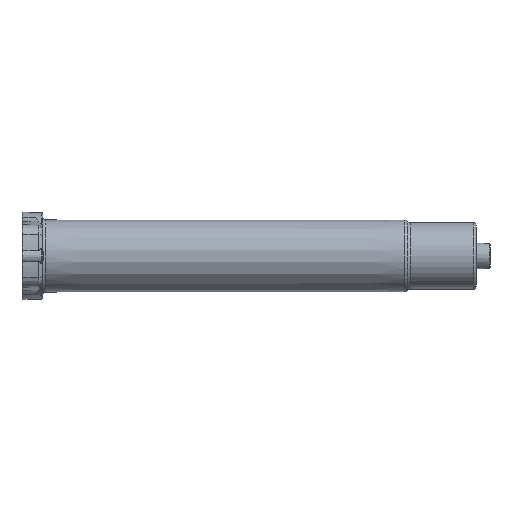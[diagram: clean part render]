
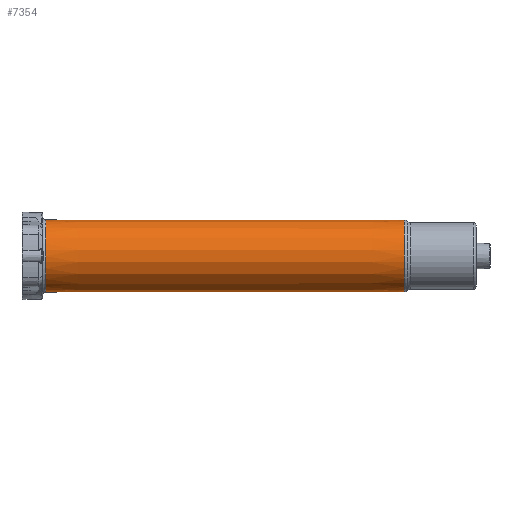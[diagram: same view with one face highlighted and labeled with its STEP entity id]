
A CAD part, left-side view. The second image highlights one B-rep face of the part: STEP entity #7354.
In plain terms, the highlighted conical face has half-angle 0.024 degrees and reference radius 5.729 mm.
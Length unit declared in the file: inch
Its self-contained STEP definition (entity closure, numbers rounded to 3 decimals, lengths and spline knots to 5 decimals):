
#686 = CARTESIAN_POINT ( 'NONE',  ( 0., 2.79401, 0. ) ) ;
#1045 = LINE ( 'NONE', #3463, #8088 ) ;
#1408 = CARTESIAN_POINT ( 'NONE',  ( 0., 2.79401, -0.22649 ) ) ;
#1820 = ORIENTED_EDGE ( 'NONE', *, *, #12513, .F. ) ;
#2349 = LINE ( 'NONE', #5955, #2418 ) ;
#2418 = VECTOR ( 'NONE', #4758, 39.37008 ) ;
#2889 = CARTESIAN_POINT ( 'NONE',  ( 0., 0.54015, -0.22555 ) ) ;
#3009 = DIRECTION ( 'NONE',  ( 0., 0., 1. ) ) ;
#3246 = DIRECTION ( 'NONE',  ( 0., 0., 1. ) ) ;
#3463 = CARTESIAN_POINT ( 'NONE',  ( 0., 0.52429, -0.22554 ) ) ;
#4758 = DIRECTION ( 'NONE',  ( 0., 1., 0. ) ) ;
#5382 = EDGE_CURVE ( 'NONE', #11584, #13889, #9308, .T. ) ;
#5733 = AXIS2_PLACEMENT_3D ( 'NONE', #12536, #10208, #3009 ) ;
#5955 = CARTESIAN_POINT ( 'NONE',  ( 0., 0.52429, 0.22554 ) ) ;
#6509 = EDGE_CURVE ( 'NONE', #13889, #10167, #2349, .T. ) ;
#6733 = CIRCLE ( 'NONE', #14916, 0.22649 ) ;
#6864 = DIRECTION ( 'NONE',  ( 0., -1., 0. ) ) ;
#6938 = DIRECTION ( 'NONE',  ( 0., 0., 1. ) ) ;
#7098 = EDGE_CURVE ( 'NONE', #10167, #12057, #6733, .T. ) ;
#7354 = ADVANCED_FACE ( 'NONE', ( #14219 ), #9823, .T. ) ;
#7511 = AXIS2_PLACEMENT_3D ( 'NONE', #15328, #9237, #3246 ) ;
#8088 = VECTOR ( 'NONE', #12984, 39.37008 ) ;
#9087 = CARTESIAN_POINT ( 'NONE',  ( 0., 2.79401, 0.22649 ) ) ;
#9237 = DIRECTION ( 'NONE',  ( 0., 1., 0. ) ) ;
#9308 = CIRCLE ( 'NONE', #5733, 0.22555 ) ;
#9823 = CONICAL_SURFACE ( 'NONE', #7511, 0.22554, 0. ) ;
#10167 = VERTEX_POINT ( 'NONE', #9087 ) ;
#10208 = DIRECTION ( 'NONE',  ( 0., 1., 0. ) ) ;
#11499 = ORIENTED_EDGE ( 'NONE', *, *, #7098, .T. ) ;
#11584 = VERTEX_POINT ( 'NONE', #2889 ) ;
#12057 = VERTEX_POINT ( 'NONE', #1408 ) ;
#12275 = CARTESIAN_POINT ( 'NONE',  ( 0., 0.54015, 0.22555 ) ) ;
#12513 = EDGE_CURVE ( 'NONE', #11584, #12057, #1045, .T. ) ;
#12536 = CARTESIAN_POINT ( 'NONE',  ( 0., 0.54015, 0. ) ) ;
#12984 = DIRECTION ( 'NONE',  ( 0., 1., 0. ) ) ;
#13889 = VERTEX_POINT ( 'NONE', #12275 ) ;
#14188 = EDGE_LOOP ( 'NONE', ( #1820, #15114, #14360, #11499 ) ) ;
#14219 = FACE_OUTER_BOUND ( 'NONE', #14188, .T. ) ;
#14360 = ORIENTED_EDGE ( 'NONE', *, *, #6509, .T. ) ;
#14916 = AXIS2_PLACEMENT_3D ( 'NONE', #686, #6864, #6938 ) ;
#15114 = ORIENTED_EDGE ( 'NONE', *, *, #5382, .T. ) ;
#15328 = CARTESIAN_POINT ( 'NONE',  ( 0., 0.52429, 0. ) ) ;
